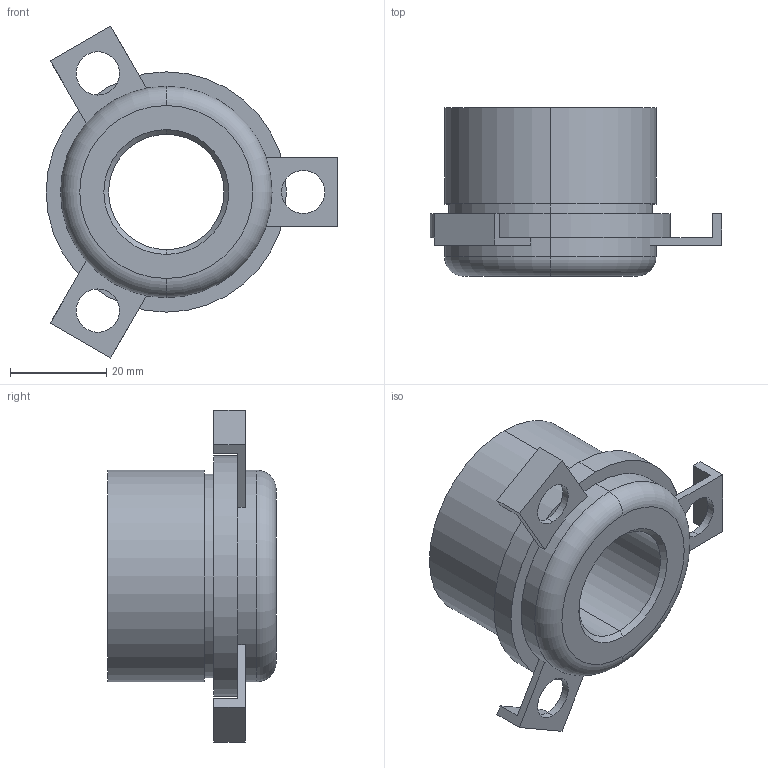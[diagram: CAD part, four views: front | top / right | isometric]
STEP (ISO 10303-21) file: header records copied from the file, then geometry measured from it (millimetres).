
FILE_DESCRIPTION (( 'STEP AP214' ), '1' );
FILE_NAME ('WZ4157_24x35.STEP', '2016-06-20T20:42:54', ( '' ), ( '' ), 'SwSTEP 2.0', 'SolidWorks 2014', '' );
FILE_SCHEMA (( 'AUTOMOTIVE_DESIGN' ));
Length unit declared in the file: millimetre
Products named in the file (1): WZ4157_24x35
Bounding box: 60.7 x 35 x 69.08 mm (x, y, z)
Surface area: 12680 mm2 (no closed solid volume)
Topology: 0 solids, 5 shells, 52 faces, 118 edges, 78 vertices
Faces by surface type: plane 27, cylinder 19, cone 4, torus 2
Entity records: 1877 total; most frequent: DIRECTION 274, CARTESIAN_POINT 249, ORIENTED_EDGE 232, EDGE_CURVE 118, AXIS2_PLACEMENT_3D 103, VERTEX_POINT 78, LINE 68, VECTOR 68
